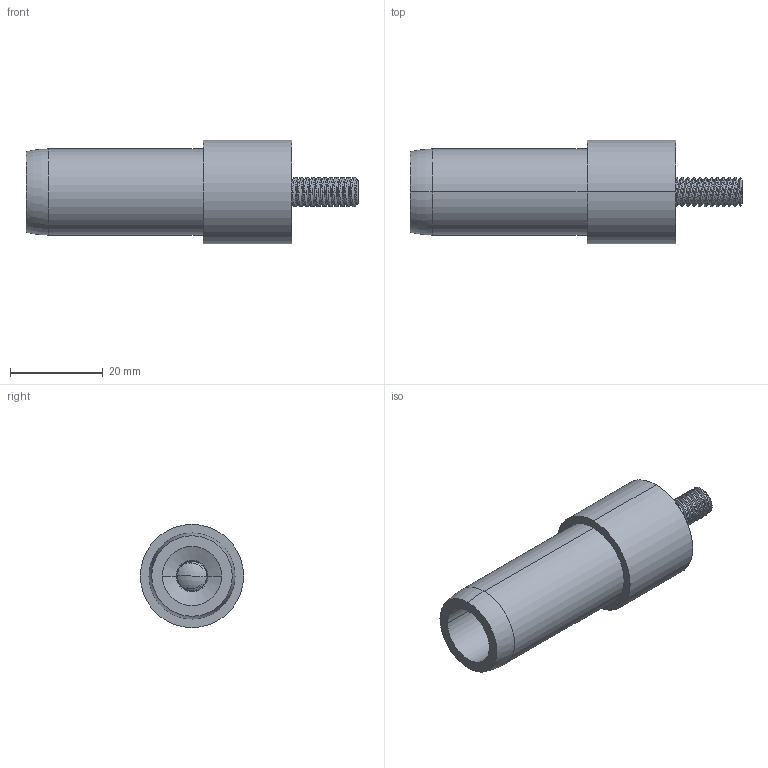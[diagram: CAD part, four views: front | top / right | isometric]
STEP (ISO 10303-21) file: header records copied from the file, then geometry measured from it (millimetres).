
FILE_DESCRIPTION (( 'STEP AP214' ), '1' );
FILE_NAME ('DRP-002-0530-00.STEP', '2013-12-20T17:36:11', ( 'ydmin' ), ( 'Microsoft' ), 'SwSTEP 2.0', 'SolidWorks 2013', '' );
FILE_SCHEMA (( 'AUTOMOTIVE_DESIGN' ));
Length unit declared in the file: inch
Products named in the file (1): DRP-002-0530-00
Bounding box: 71.44 x 22.23 x 22.23 mm (x, y, z)
Volume: 12984.8 mm3; surface area: 7863.1 mm2
Topology: 3 solids, 3 shells, 247 faces, 510 edges, 269 vertices
Faces by surface type: cone 111, cylinder 106, plane 18, bspline 8, sphere 2, torus 2
Entity records: 15761 total; most frequent: CARTESIAN_POINT 7571, ORIENTED_EDGE 1016, DIRECTION 1004, EDGE_CURVE 508, AXIS2_PLACEMENT_3D 384, VERTEX_POINT 269, DIMENSIONAL_EXPONENTS 252, UNCERTAINTY_MEASURE_WITH_UNIT 252
